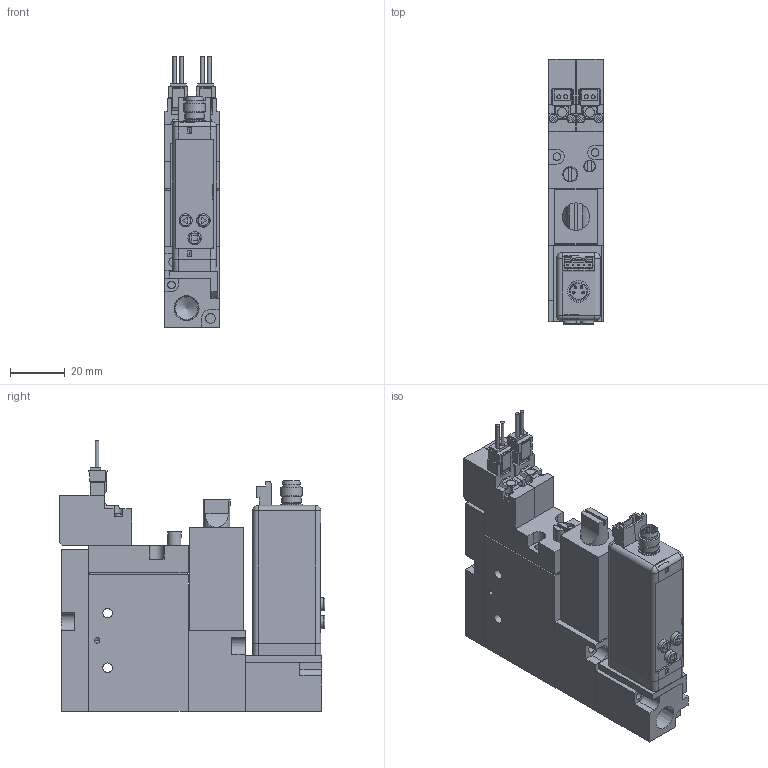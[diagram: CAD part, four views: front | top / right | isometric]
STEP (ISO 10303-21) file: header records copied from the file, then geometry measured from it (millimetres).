
FILE_DESCRIPTION(('STEP AP203'),'1');
FILE_NAME('BMPV32S2N20225BL.stp','2025-06-17T01:50:24',(' '),(' '),'Spatial InterOp 3D',' ',' ');
FILE_SCHEMA(('CONFIG_CONTROL_DESIGN'));
Length unit declared in the file: millimetre
Products named in the file (14): BMPV32S2N20225BL; MVS-202; __ ___ (Rc); ___-3(Rc); Filter Assy; __; _____; ___ ___; ___; upper plate-A; ______; ____; VACUUM VALVE FUNCTION MPV42-A
Assembly tree (13 placements, depth 2):
  BMPV32S2N20225BL
    MVS-202
    __ ___ (Rc)
    ___-3(Rc)
    Filter Assy
    __
    _____
    ___ ___
    ___
    upper plate-A
    ______
    ____
    VACUUM VALVE FUNCTION MPV42-A
    VACUUM VALVE FUNCTION MPV42-A
Bounding box: 20 x 97.3 x 99.25 mm (x, y, z)
Volume: 118021.7 mm3; surface area: 42867.6 mm2
Topology: 13 solids, 17 shells, 772 faces, 1981 edges, 1300 vertices
Faces by surface type: plane 634, cylinder 113, cone 18, sphere 4, torus 3
Full cylindrical faces by diameter (mm): 1 x4, 1.4 x4, 1.5 x1, 1.8 x2, 2 x2, 2.5 x2, 2.8 x4, 3 x4, 3.5 x10, 4 x1, 4.2 x1, 4.5 x4, 4.8 x3, 5 x3, 5.5 x1, 5.8 x2, 6 x1, 6.5 x4, 7 x1, 7.2 x1, 7.9 x1, 8 x2, 8.2 x1, 8.759 x1
Entity records: 23394 total; most frequent: CARTESIAN_POINT 4077, ORIENTED_EDGE 3740, DIRECTION 3718, EDGE_CURVE 1870, LINE 1562, VECTOR 1562, VERTEX_POINT 1281, AXIS2_PLACEMENT_3D 1078
